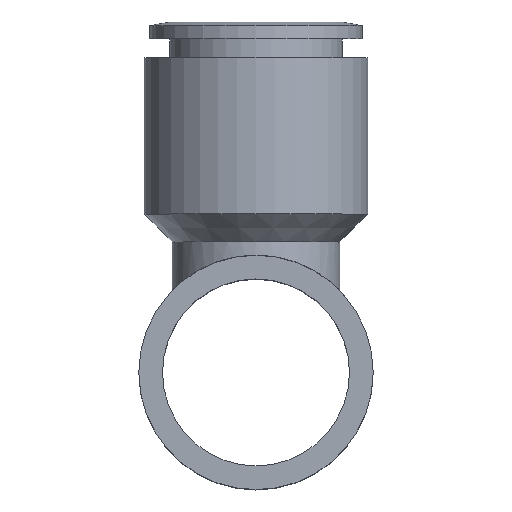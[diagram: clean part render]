
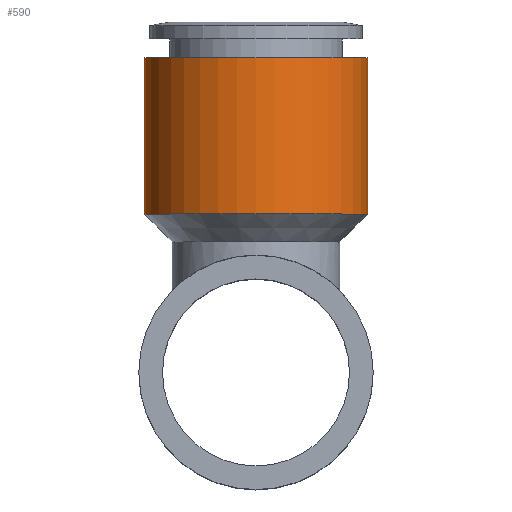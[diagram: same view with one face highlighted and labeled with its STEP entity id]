
A CAD part, top view. The second image highlights one B-rep face of the part: STEP entity #590.
In plain terms, the highlighted cylindrical face has radius 10 mm (diameter 20 mm), a full revolution.
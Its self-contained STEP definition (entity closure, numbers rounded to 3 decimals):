
#556=CARTESIAN_POINT('',(-10.0,14.2,0.0));
#557=VERTEX_POINT('',#556);
#558=CARTESIAN_POINT('',(0.0,14.2,0.0));
#559=DIRECTION('',(0.0,1.0,0.0));
#560=DIRECTION('',(-1.0,0.0,0.0));
#561=AXIS2_PLACEMENT_3D('',#558,#559,#560);
#562=CIRCLE('',#561,10.0);
#563=EDGE_CURVE('',#557,#557,#562,.T.);
#571=CARTESIAN_POINT('',(0.0,21.2,0.0));
#572=DIRECTION('',(0.0,1.0,0.0));
#573=DIRECTION('',(-1.0,0.0,0.0));
#574=AXIS2_PLACEMENT_3D('',#571,#572,#573);
#575=CYLINDRICAL_SURFACE('',#574,10.0);
#576=CARTESIAN_POINT('',(-10.0,28.2,0.0));
#577=VERTEX_POINT('',#576);
#578=CARTESIAN_POINT('',(0.0,28.2,0.0));
#579=DIRECTION('',(0.0,1.0,0.0));
#580=DIRECTION('',(-1.0,0.0,0.0));
#581=AXIS2_PLACEMENT_3D('',#578,#579,#580);
#582=CIRCLE('',#581,10.0);
#583=EDGE_CURVE('',#577,#577,#582,.T.);
#584=ORIENTED_EDGE('',*,*,#583,.F.);
#585=EDGE_LOOP('',(#584));
#586=FACE_OUTER_BOUND('',#585,.T.);
#587=ORIENTED_EDGE('',*,*,#563,.T.);
#588=EDGE_LOOP('',(#587));
#589=FACE_BOUND('',#588,.T.);
#590=ADVANCED_FACE('',(#586,#589),#575,.T.);
